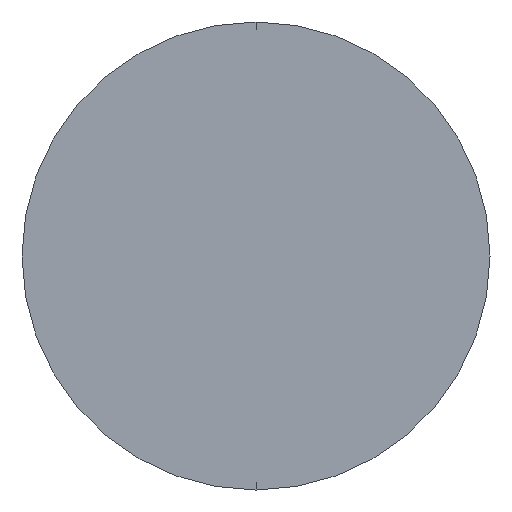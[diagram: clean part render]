
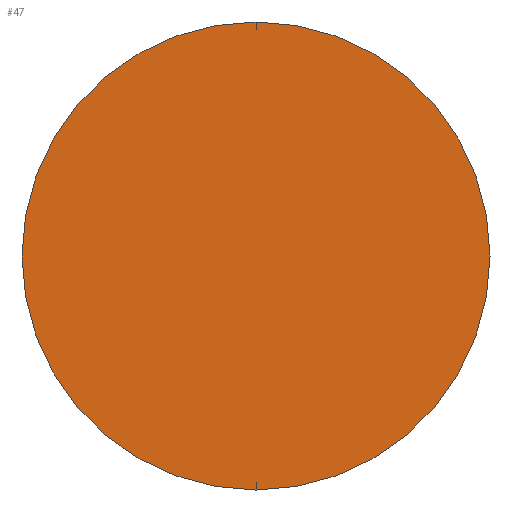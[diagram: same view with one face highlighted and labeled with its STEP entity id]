
A CAD part, left-side view. The second image highlights one B-rep face of the part: STEP entity #47.
In plain terms, the highlighted planar face has unit normal (-1, 0, 0).
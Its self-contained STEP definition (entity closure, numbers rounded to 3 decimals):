
#12 = CARTESIAN_POINT ( 'NONE',  ( 0., 0., 0. ) ) ;
#40 = CIRCLE ( 'NONE', #118, 1.75 ) ;
#47 = ADVANCED_FACE ( 'NONE', ( #207 ), #248, .F. ) ;
#49 = CIRCLE ( 'NONE', #147, 1.75 ) ;
#58 = DIRECTION ( 'NONE',  ( 1., 0., 0. ) ) ;
#70 = DIRECTION ( 'NONE',  ( 0., 0., 1. ) ) ;
#102 = CARTESIAN_POINT ( 'NONE',  ( 0., 0., 0. ) ) ;
#108 = EDGE_CURVE ( 'NONE', #214, #219, #40, .T. ) ;
#116 = DIRECTION ( 'NONE',  ( 0., 0., -1. ) ) ;
#118 = AXIS2_PLACEMENT_3D ( 'NONE', #217, #222, #70 ) ;
#119 = DIRECTION ( 'NONE',  ( -1., 0., 0. ) ) ;
#142 = ORIENTED_EDGE ( 'NONE', *, *, #215, .T. ) ;
#147 = AXIS2_PLACEMENT_3D ( 'NONE', #12, #119, #220 ) ;
#157 = ORIENTED_EDGE ( 'NONE', *, *, #108, .T. ) ;
#165 = AXIS2_PLACEMENT_3D ( 'NONE', #102, #58, #116 ) ;
#179 = CARTESIAN_POINT ( 'NONE',  ( 0., 0., -1.75 ) ) ;
#207 = FACE_OUTER_BOUND ( 'NONE', #234, .T. ) ;
#214 = VERTEX_POINT ( 'NONE', #218 ) ;
#215 = EDGE_CURVE ( 'NONE', #219, #214, #49, .T. ) ;
#217 = CARTESIAN_POINT ( 'NONE',  ( 0., 0., 0. ) ) ;
#218 = CARTESIAN_POINT ( 'NONE',  ( 0., 0., 1.75 ) ) ;
#219 = VERTEX_POINT ( 'NONE', #179 ) ;
#220 = DIRECTION ( 'NONE',  ( 0., 0., 1. ) ) ;
#222 = DIRECTION ( 'NONE',  ( -1., 0., 0. ) ) ;
#234 = EDGE_LOOP ( 'NONE', ( #157, #142 ) ) ;
#248 = PLANE ( 'NONE',  #165 ) ;
